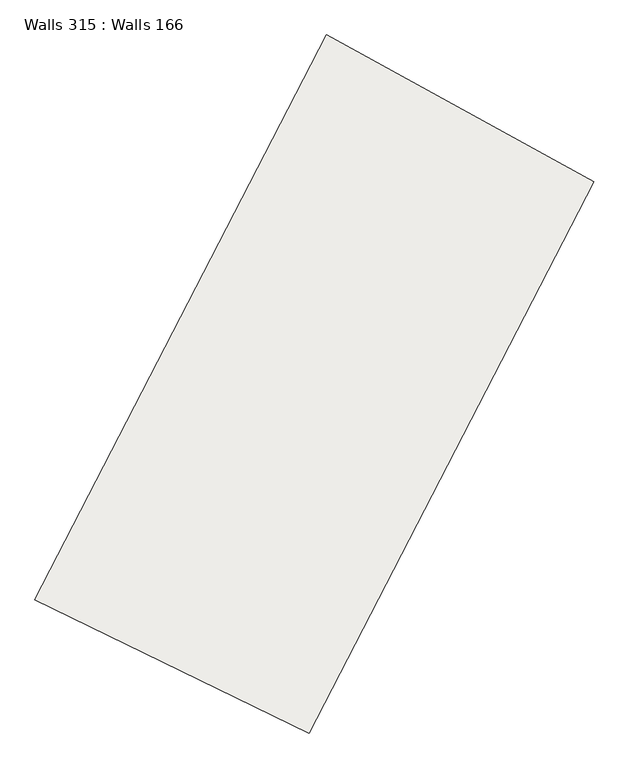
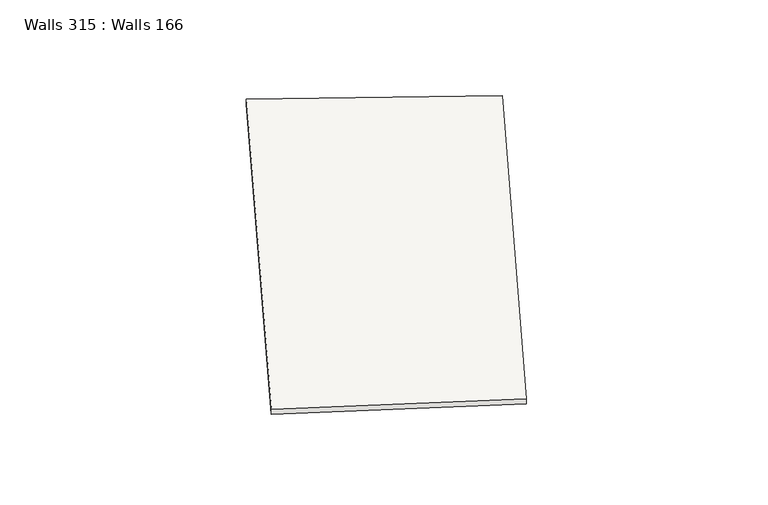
"""IFC4 building model written with IfcOpenShell, lengths in millimetres: slab geometry, Walls 315 : Walls 166."""

from ifc_helpers import new_model, si_unit, frame, origin, place, context, project, spatial, source, transform, mapped, element, save
from ifc_brep_helpers import plane_surface, spline_curve, spline_surface, advanced_brep


def walls_315_walls_166_397d4449(model_context):
    return source(origin(), model_context, "Body", "AdvancedBrep", [
        advanced_brep(
        [(202625.5524091, 96245.6031067, 641540.0), (206402.6919387, 94409.1155539, 641540.0), (206402.6919387, 94409.1155539, 641640.0), (202625.5524091, 96245.6031067, 641640.0), (206637.2767582, 104013.4839664, 641650.0), (206637.2767582, 104013.4839664, 641750.0), (210321.33162, 101996.6201199, 641750.0), (210321.33162, 101996.6201199, 641650.0)],
        [
            (0, 1),
            (1, 2),
            (2, 3),
            (3, 0),
            (4, 5),
            (5, 6),
            (6, 7),
            (7, 4),
            (7, 1, spline_curve(3, [(210321.33162, 101996.6201199, 641650.0), (208954.25131947, 99499.511496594, 641613.333333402), (207647.52948414, 96969.3585391, 641576.666666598), (206402.6919387, 94409.1155539, 641540.0)], [4, 4], [0.0, 28.354974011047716])),
            (0, 4, spline_curve(3, [(202625.5524091, 96245.6031067, 641540.0), (203899.958878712, 98866.709210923, 641576.666666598), (205237.721003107, 101457.011017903, 641613.333333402), (206637.2767582, 104013.4839664, 641650.0)], [4, 4], [0.0, 28.354974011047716])),
            (5, 3, spline_curve(3, [(206637.2767582, 104013.4839664, 641750.0), (205237.721003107, 101457.011017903, 641713.333333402), (203899.958878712, 98866.709210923, 641676.666666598), (202625.5524091, 96245.6031067, 641640.0)], [4, 4], [0.0, 28.354974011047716])),
            (2, 6, spline_curve(3, [(206402.6919387, 94409.1155539, 641640.0), (207647.52948414, 96969.3585391, 641676.666666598), (208954.25131947, 99499.511496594, 641713.333333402), (210321.33162, 101996.6201199, 641750.0)], [4, 4], [0.0, 28.354974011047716])),
        ],
        [
            plane_surface(frame((204514.1221739, 95327.3593303, 641590.0), z_axis=(-0.43726551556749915, -0.899332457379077, 0.0), x_axis=(0.899332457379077, -0.43726551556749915, 0.0))),
            plane_surface(frame((208479.3041891, 103005.0520432, 641700.0), z_axis=(0.4802056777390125, 0.8771559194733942, 0.0), x_axis=(0.8771559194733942, -0.4802056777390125, 0.0))),
            spline_surface(3, 3, [[(206637.2767582, 104013.4839664, 641650.0), (205237.721003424, 101457.011017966, 641613.333333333), (203899.958878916, 98866.70921108, 641576.666666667), (202625.5524091, 96245.6031067, 641540.0)], [(207865.295045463, 103341.196017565, 641650.0), (206476.564441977, 100804.511177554, 641613.333333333), (205149.14908061, 98234.258987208, 641576.666666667), (203884.59891898, 95633.440589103, 641540.0)], [(209093.313332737, 102668.908068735, 641650.0), (207715.407880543, 100152.011337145, 641613.333333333), (206398.339282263, 97601.808763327, 641576.666666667), (205143.64542882, 95021.278071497, 641540.0)], [(210321.33162, 101996.6201199, 641650.0), (208954.251319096, 99499.511496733, 641613.333333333), (207647.529483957, 96969.358539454, 641576.666666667), (206402.6919387, 94409.1155539, 641540.0)]], [4, 4], [4, 4], [0.0, 13.779423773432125], [0.0, 28.354974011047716]),
            spline_surface(3, 3, [[(210321.33162, 101996.6201199, 641750.0), (208954.251319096, 99499.511496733, 641713.333333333), (207647.529483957, 96969.358539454, 641676.666666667), (206402.6919387, 94409.1155539, 641640.0)], [(209093.313332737, 102668.908068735, 641750.0), (207715.407880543, 100152.011337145, 641713.333333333), (206398.339282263, 97601.808763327, 641676.666666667), (205143.64542882, 95021.278071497, 641640.0)], [(207865.295045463, 103341.196017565, 641750.0), (206476.564441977, 100804.511177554, 641713.333333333), (205149.14908061, 98234.258987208, 641676.666666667), (203884.59891898, 95633.440589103, 641640.0)], [(206637.2767582, 104013.4839664, 641750.0), (205237.721003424, 101457.011017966, 641713.333333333), (203899.958878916, 98866.70921108, 641676.666666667), (202625.5524091, 96245.6031067, 641640.0)]], [4, 4], [4, 4], [0.0, 13.779423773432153], [0.0, 28.354974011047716]),
            spline_surface(3, 3, [[(210321.33162, 101996.6201199, 641650.0), (208954.251319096, 99499.511496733, 641613.333333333), (207647.529483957, 96969.358539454, 641576.666666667), (206402.6919387, 94409.1155539, 641540.0)], [(210321.33162, 101996.6201199, 641683.333333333), (208954.251319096, 99499.511496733, 641646.666666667), (207647.529483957, 96969.358539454, 641610.0), (206402.6919387, 94409.1155539, 641573.333333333)], [(210321.33162, 101996.6201199, 641716.666666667), (208954.251319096, 99499.511496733, 641680.0), (207647.529483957, 96969.358539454, 641643.333333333), (206402.6919387, 94409.1155539, 641606.666666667)], [(210321.33162, 101996.6201199, 641750.0), (208954.251319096, 99499.511496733, 641713.333333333), (207647.529483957, 96969.358539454, 641676.666666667), (206402.6919387, 94409.1155539, 641640.0)]], [4, 4], [4, 4], [0.0, 0.3280839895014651], [0.0, 28.022002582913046]),
            spline_surface(3, 3, [[(206637.2767582, 104013.4839664, 641750.0), (205237.721003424, 101457.011017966, 641713.333333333), (203899.958878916, 98866.70921108, 641676.666666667), (202625.5524091, 96245.6031067, 641640.0)], [(206637.2767582, 104013.4839664, 641716.666666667), (205237.721003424, 101457.011017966, 641680.0), (203899.958878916, 98866.70921108, 641643.333333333), (202625.5524091, 96245.6031067, 641606.666666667)], [(206637.2767582, 104013.4839664, 641683.333333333), (205237.721003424, 101457.011017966, 641646.666666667), (203899.958878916, 98866.70921108, 641610.0), (202625.5524091, 96245.6031067, 641573.333333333)], [(206637.2767582, 104013.4839664, 641650.0), (205237.721003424, 101457.011017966, 641613.333333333), (203899.958878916, 98866.70921108, 641576.666666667), (202625.5524091, 96245.6031067, 641540.0)]], [4, 4], [4, 4], [0.0, 0.3280839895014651], [0.0, 28.687946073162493]),
        ],
        [
            (0, [[1, 2, 3, 4]]),
            (1, [[5, 6, 7, 8]]),
            (2, [[-8, 9, -1, 10]]),
            (3, [[-6, 11, -3, 12]]),
            (4, [[-7, -12, -2, -9]]),
            (5, [[-5, -10, -4, -11]]),
        ],
    ),
    ])


if __name__ == "__main__":
    model = new_model("IFC4")
    model_context = context("Model", 3, world=origin())
    ifc_project = project(units=[si_unit("LENGTHUNIT", "METRE", prefix="MILLI")], contexts=[model_context])
    site = spatial("IfcSite", under=ifc_project)
    building = spatial("IfcBuilding", under=site)
    placement = place(None, origin())
    walls_315_walls_166_shape = walls_315_walls_166_397d4449(model_context)
    element("IfcSlab", 1, ObjectType="Walls 315 : Walls 166", at=placement, inside=building, context=model_context, shape_type="MappedRepresentation", body=[
        mapped(walls_315_walls_166_shape, transform((0.0, 0.0, 0.0), x_axis=(1.0, 0.0, 0.0), y_axis=(0.0, 1.0, 0.0), z_axis=(0.0, 0.0, 1.0))),
    ])
    save(model, "model.ifc")
